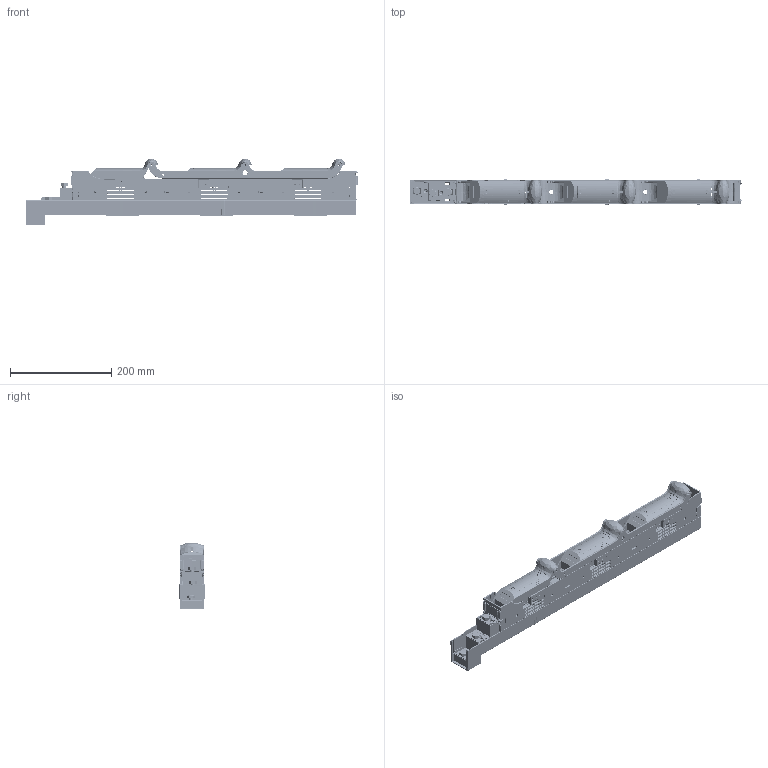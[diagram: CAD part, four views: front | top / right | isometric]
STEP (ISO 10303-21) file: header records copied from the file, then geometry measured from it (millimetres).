
FILE_DESCRIPTION (( 'STEP AP214' ), '1' );
FILE_NAME ('FSD00-33D-F__1.step', '2014-11-18T07:49:10', ( '' ), ( '' ), 'SwSTEP 2.0', 'SolidWorks 2011', '' );
FILE_SCHEMA (( 'AUTOMOTIVE_DESIGN' ));
Length unit declared in the file: millimetre
Products named in the file (1): FSD00-33D-F__1
Bounding box: 654.93 x 49.8 x 132.03 mm (x, y, z)
Volume: 592484.7 mm3; surface area: 670425.4 mm2
Topology: 20 solids, 20 shells, 10128 faces, 27644 edges, 17413 vertices
Faces by surface type: plane 5078, cylinder 2507, bspline 1372, cone 1171
Entity records: 484728 total; most frequent: CARTESIAN_POINT 133653, ORIENTED_EDGE 55186, DIRECTION 43248, EDGE_CURVE 27593, VERTEX_POINT 17413, VECTOR 17124, LINE 17124, AXIS2_PLACEMENT_3D 13062
